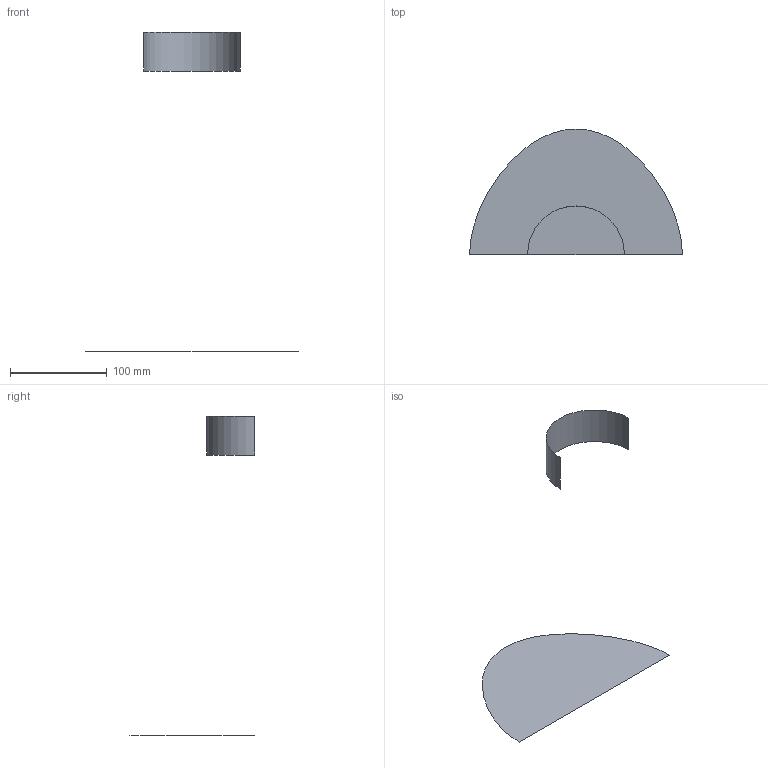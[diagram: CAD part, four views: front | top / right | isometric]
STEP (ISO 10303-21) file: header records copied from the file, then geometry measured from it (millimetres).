
FILE_DESCRIPTION(('CATIA V5 STEP Exchange'),'2;1');
FILE_NAME('C:\_Andres\UNIVERSIDAD\IQS\ASIGNATURAS\DAO\Controles\1617\c1\1original\Munar_Parra_Ej00-base_v20.stp','2017-02-06T16:27:45+00:00',('none'),('none'),'CATIA Version 5-6 Release 2014 SP1 HF18','CATIA V5 STEP AP203','none');
FILE_SCHEMA(('CONFIG_CONTROL_DESIGN'));
Length unit declared in the file: millimetre
Products named in the file (1): Munar_Parra_Ej00-base_v20
Bounding box: 220 x 130 x 330 mm (x, y, z)
Surface area: 27818.9 mm2 (no closed solid volume)
Topology: 0 solids, 2 shells, 2 faces, 16 edges, 26 vertices
Faces by surface type: cylinder 1, plane 1
Entity records: 230 total; most frequent: CARTESIAN_POINT 78, DIRECTION 16, COMPOSITE_CURVE_SEGMENT 9, TRIMMED_CURVE 9, AXIS2_PLACEMENT_3D 8, COMPOSITE_CURVE 7, ORIENTED_EDGE 7, EDGE_CURVE 7
